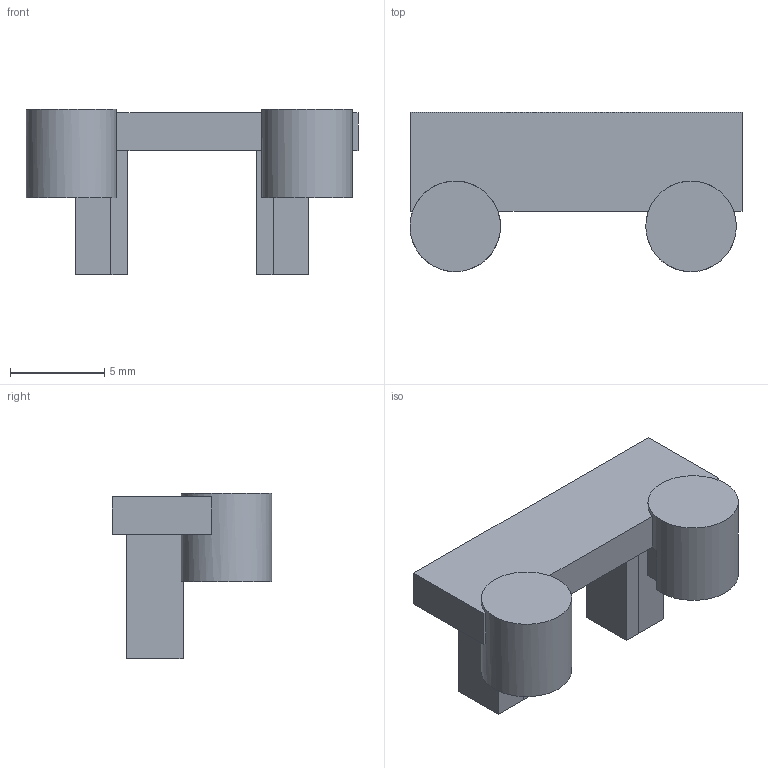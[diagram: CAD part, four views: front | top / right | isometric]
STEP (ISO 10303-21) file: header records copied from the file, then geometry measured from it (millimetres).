
FILE_DESCRIPTION(('Open CASCADE Model'),'2;1');
FILE_NAME('ADD_P01_ADAPTER_FULL_CLEARANCE_SUPPORTED_SEAT_FINAL', '2026-09-15T15:05:35',('Author'),('Open CASCADE'), 'Open CASCADE STEP processor 7.9','build123d','Unknown');
FILE_SCHEMA(('AUTOMOTIVE_DESIGN { 1 0 10303 214 1 1 1 1 }'));
Length unit declared in the file: millimetre
Products named in the file (1): ADD_P01_ADAPTER_FULL_CLEARANCE_SUPPORTED_SEAT_FINAL
Bounding box: 17.6 x 8.45 x 8.8 mm (x, y, z)
Volume: 422.2 mm3; surface area: 624.4 mm2
Topology: 1 solids, 1 shells, 43 faces, 107 edges, 68 vertices
Faces by surface type: plane 37, cylinder 6
Full cylindrical faces by diameter (mm): 1.7 x2, 4.8 x2
Entity records: 2624 total; most frequent: CARTESIAN_POINT 473, DIRECTION 391, LINE 235, VECTOR 235, ORIENTED_EDGE 214, PCURVE 214, DEFINITIONAL_REPRESENTATION 214, EDGE_CURVE 107
